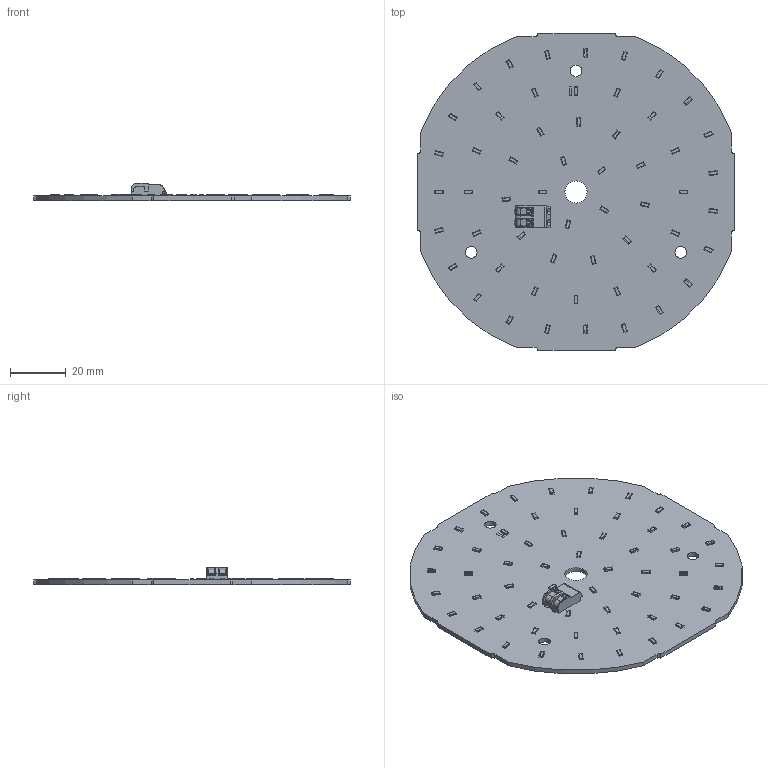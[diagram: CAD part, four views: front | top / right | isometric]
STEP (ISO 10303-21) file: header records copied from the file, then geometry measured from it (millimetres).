
FILE_DESCRIPTION((''),'2;1');
FILE_NAME('S209A_MODUL','2017-02-08T',('bernhard.fink'),(''),'PRO/ENGINEER BY PARAMETRIC TECHNOLOGY CORPORATION, 2015200','PRO/ENGINEER BY PARAMETRIC TECHNOLOGY CORPORATION, 2015200','');
FILE_SCHEMA(('AUTOMOTIVE_DESIGN { 1 0 10303 214 1 1 1 1 }'));
Length unit declared in the file: millimetre
Products named in the file (1): S209A_MODUL
Bounding box: 114 x 114 x 6.15 mm (x, y, z)
Volume: 18348 mm3; surface area: 23269 mm2
Topology: 1 solids, 1 shells, 995 faces, 2638 edges, 1760 vertices
Faces by surface type: plane 698, cylinder 295, sphere 2
Entity records: 42859 total; most frequent: CARTESIAN_POINT 5542, ORIENTED_EDGE 5276, DIRECTION 5200, PRESENTATION_STYLE_ASSIGNMENT 3151, STYLED_ITEM 2639, CURVE_STYLE 2638, EDGE_CURVE 2638, VECTOR 2012
